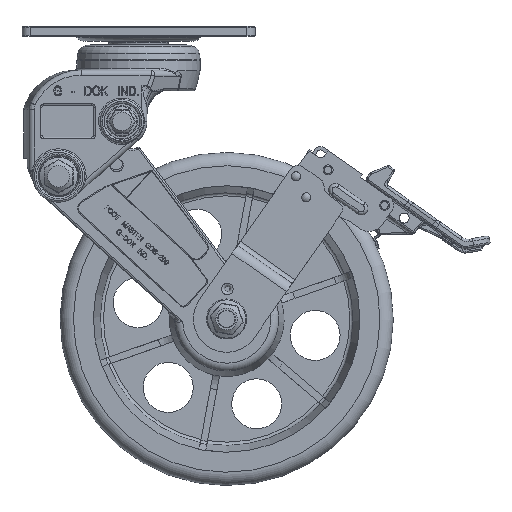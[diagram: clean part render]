
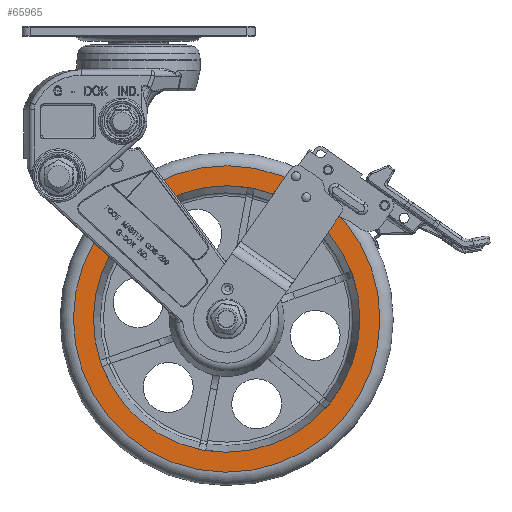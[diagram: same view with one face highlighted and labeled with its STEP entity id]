
A CAD part, left-side view. The second image highlights one B-rep face of the part: STEP entity #65965.
In plain terms, the highlighted planar face has unit normal (-1, 0, 0).
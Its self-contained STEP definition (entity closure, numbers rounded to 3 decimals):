
#14567=PLANE('',#70858);
#15475=FACE_BOUND('',#20906,.T.);
#17073=FACE_OUTER_BOUND('',#20905,.T.);
#20905=EDGE_LOOP('',(#47650));
#20906=EDGE_LOOP('',(#47651,#47652,#47653,#47654,#47655,#47656));
#24000=CIRCLE('',#68903,9.2);
#24867=CIRCLE('',#70859,8.);
#24868=CIRCLE('',#70860,8.);
#24869=CIRCLE('',#70861,8.);
#24870=CIRCLE('',#70862,8.);
#24871=CIRCLE('',#70863,8.);
#24872=CIRCLE('',#70864,8.);
#26222=VERTEX_POINT('',#88794);
#27725=VERTEX_POINT('',#101747);
#27726=VERTEX_POINT('',#101748);
#27727=VERTEX_POINT('',#101750);
#27728=VERTEX_POINT('',#101752);
#27729=VERTEX_POINT('',#101754);
#27730=VERTEX_POINT('',#101756);
#32627=EDGE_CURVE('',#26222,#26222,#24000,.T.);
#35104=EDGE_CURVE('',#27725,#27726,#24867,.T.);
#35105=EDGE_CURVE('',#27727,#27725,#24868,.T.);
#35106=EDGE_CURVE('',#27728,#27727,#24869,.T.);
#35107=EDGE_CURVE('',#27729,#27728,#24870,.T.);
#35108=EDGE_CURVE('',#27730,#27729,#24871,.T.);
#35109=EDGE_CURVE('',#27726,#27730,#24872,.T.);
#47650=ORIENTED_EDGE('',*,*,#32627,.F.);
#47651=ORIENTED_EDGE('',*,*,#35104,.F.);
#47652=ORIENTED_EDGE('',*,*,#35105,.F.);
#47653=ORIENTED_EDGE('',*,*,#35106,.F.);
#47654=ORIENTED_EDGE('',*,*,#35107,.F.);
#47655=ORIENTED_EDGE('',*,*,#35108,.F.);
#47656=ORIENTED_EDGE('',*,*,#35109,.F.);
#65965=ADVANCED_FACE('',(#17073,#15475),#14567,.T.);
#68903=AXIS2_PLACEMENT_3D('',#88795,#74426,#74427);
#70858=AXIS2_PLACEMENT_3D('',#101746,#79533,#79534);
#70859=AXIS2_PLACEMENT_3D('',#101749,#79535,#79536);
#70860=AXIS2_PLACEMENT_3D('',#101751,#79537,#79538);
#70861=AXIS2_PLACEMENT_3D('',#101753,#79539,#79540);
#70862=AXIS2_PLACEMENT_3D('',#101755,#79541,#79542);
#70863=AXIS2_PLACEMENT_3D('',#101757,#79543,#79544);
#70864=AXIS2_PLACEMENT_3D('',#101758,#79545,#79546);
#74426=DIRECTION('center_axis',(1.,0.,0.));
#74427=DIRECTION('ref_axis',(0.,0.943,-0.334));
#79533=DIRECTION('center_axis',(-1.,0.,0.));
#79534=DIRECTION('ref_axis',(0.,0.334,0.943));
#79535=DIRECTION('center_axis',(-1.,0.,0.));
#79536=DIRECTION('ref_axis',(0.,-0.943,0.334));
#79537=DIRECTION('center_axis',(-1.,0.,0.));
#79538=DIRECTION('ref_axis',(0.,-0.943,0.334));
#79539=DIRECTION('center_axis',(-1.,0.,0.));
#79540=DIRECTION('ref_axis',(0.,-0.943,0.334));
#79541=DIRECTION('center_axis',(-1.,0.,0.));
#79542=DIRECTION('ref_axis',(0.,-0.943,0.334));
#79543=DIRECTION('center_axis',(-1.,0.,0.));
#79544=DIRECTION('ref_axis',(0.,-0.943,0.334));
#79545=DIRECTION('center_axis',(-1.,0.,0.));
#79546=DIRECTION('ref_axis',(0.,-0.943,0.334));
#88794=CARTESIAN_POINT('',(-4.276,-6.238,-0.71));
#88795=CARTESIAN_POINT('Origin',(-4.276,2.434,-3.781));
#101746=CARTESIAN_POINT('Origin',(-4.276,-5.342,-1.027));
#101747=CARTESIAN_POINT('',(-4.276,-5.107,-1.11));
#101748=CARTESIAN_POINT('',(-4.276,0.977,4.085));
#101749=CARTESIAN_POINT('Origin',(-4.276,2.434,-3.781));
#101750=CARTESIAN_POINT('',(-4.276,-3.649,-8.977));
#101751=CARTESIAN_POINT('Origin',(-4.276,2.434,-3.781));
#101752=CARTESIAN_POINT('',(-4.276,3.892,-11.647));
#101753=CARTESIAN_POINT('Origin',(-4.276,2.434,-3.781));
#101754=CARTESIAN_POINT('',(-4.276,9.976,-6.452));
#101755=CARTESIAN_POINT('Origin',(-4.276,2.434,-3.781));
#101756=CARTESIAN_POINT('',(-4.276,8.518,1.414));
#101757=CARTESIAN_POINT('Origin',(-4.276,2.434,-3.781));
#101758=CARTESIAN_POINT('Origin',(-4.276,2.434,-3.781));
